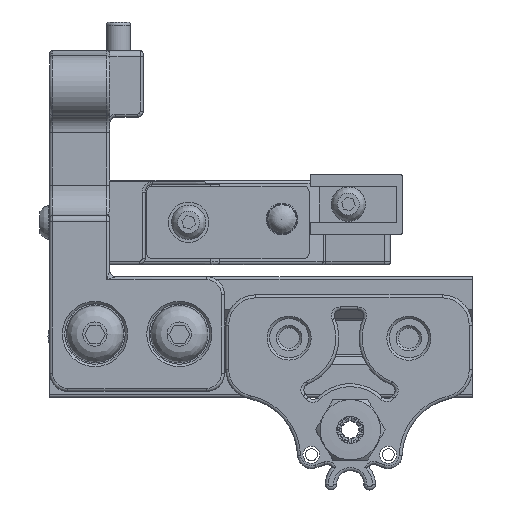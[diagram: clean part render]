
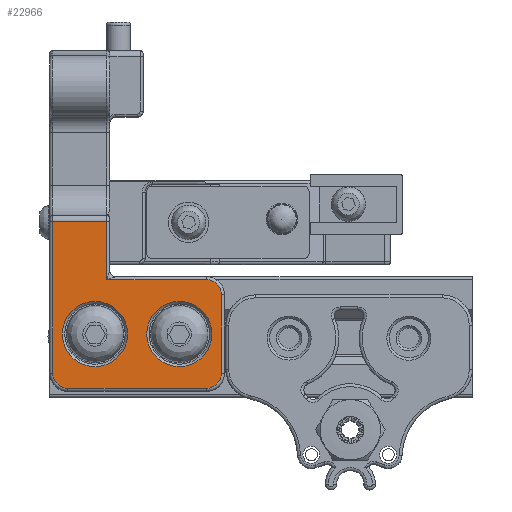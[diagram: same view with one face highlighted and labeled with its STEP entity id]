
A CAD part, top view. The second image highlights one B-rep face of the part: STEP entity #22966.
In plain terms, the highlighted planar face has unit normal (0, 0, 1).
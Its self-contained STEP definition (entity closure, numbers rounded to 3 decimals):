
#647=FACE_BOUND('',#7189,.T.);
#648=FACE_BOUND('',#7190,.T.);
#1763=PLANE('',#25096);
#2638=LINE('',#71018,#3911);
#2639=LINE('',#71022,#3912);
#2640=LINE('',#71026,#3913);
#2641=LINE('',#71028,#3914);
#2642=LINE('',#71030,#3915);
#2643=LINE('',#71031,#3916);
#3911=VECTOR('',#29434,10.);
#3912=VECTOR('',#29437,10.);
#3913=VECTOR('',#29440,10.);
#3914=VECTOR('',#29441,10.);
#3915=VECTOR('',#29442,1.);
#3916=VECTOR('',#29443,10.);
#5738=FACE_OUTER_BOUND('',#7188,.T.);
#7188=EDGE_LOOP('',(#18622,#18623,#18624,#18625,#18626,#18627,#18628,#18629,
#18630));
#7189=EDGE_LOOP('',(#18631));
#7190=EDGE_LOOP('',(#18632));
#8489=CIRCLE('',#25093,5.4);
#8492=CIRCLE('',#25097,2.5);
#8493=CIRCLE('',#25098,2.5);
#8494=CIRCLE('',#25099,2.5);
#8495=CIRCLE('',#25100,5.4);
#10525=VERTEX_POINT('',#71006);
#10528=VERTEX_POINT('',#71014);
#10529=VERTEX_POINT('',#71015);
#10530=VERTEX_POINT('',#71017);
#10531=VERTEX_POINT('',#71019);
#10532=VERTEX_POINT('',#71021);
#10533=VERTEX_POINT('',#71023);
#10534=VERTEX_POINT('',#71025);
#10535=VERTEX_POINT('',#71027);
#10536=VERTEX_POINT('',#71029);
#10537=VERTEX_POINT('',#71032);
#13359=EDGE_CURVE('',#10525,#10525,#8489,.T.);
#13363=EDGE_CURVE('',#10528,#10529,#8492,.T.);
#13364=EDGE_CURVE('',#10530,#10528,#2638,.T.);
#13365=EDGE_CURVE('',#10531,#10530,#8493,.T.);
#13366=EDGE_CURVE('',#10532,#10531,#2639,.T.);
#13367=EDGE_CURVE('',#10533,#10532,#8494,.T.);
#13368=EDGE_CURVE('',#10534,#10533,#2640,.T.);
#13369=EDGE_CURVE('',#10535,#10534,#2641,.T.);
#13370=EDGE_CURVE('',#10536,#10535,#2642,.T.);
#13371=EDGE_CURVE('',#10529,#10536,#2643,.T.);
#13372=EDGE_CURVE('',#10537,#10537,#8495,.T.);
#18622=ORIENTED_EDGE('',*,*,#13363,.F.);
#18623=ORIENTED_EDGE('',*,*,#13364,.F.);
#18624=ORIENTED_EDGE('',*,*,#13365,.F.);
#18625=ORIENTED_EDGE('',*,*,#13366,.F.);
#18626=ORIENTED_EDGE('',*,*,#13367,.F.);
#18627=ORIENTED_EDGE('',*,*,#13368,.F.);
#18628=ORIENTED_EDGE('',*,*,#13369,.F.);
#18629=ORIENTED_EDGE('',*,*,#13370,.F.);
#18630=ORIENTED_EDGE('',*,*,#13371,.F.);
#18631=ORIENTED_EDGE('',*,*,#13372,.F.);
#18632=ORIENTED_EDGE('',*,*,#13359,.F.);
#22966=ADVANCED_FACE('',(#5738,#647,#648),#1763,.F.);
#25093=AXIS2_PLACEMENT_3D('',#71007,#29423,#29424);
#25096=AXIS2_PLACEMENT_3D('',#71013,#29430,#29431);
#25097=AXIS2_PLACEMENT_3D('',#71016,#29432,#29433);
#25098=AXIS2_PLACEMENT_3D('',#71020,#29435,#29436);
#25099=AXIS2_PLACEMENT_3D('',#71024,#29438,#29439);
#25100=AXIS2_PLACEMENT_3D('',#71033,#29444,#29445);
#29423=DIRECTION('center_axis',(0.,0.,
1.));
#29424=DIRECTION('ref_axis',(-1.,0.,0.));
#29430=DIRECTION('center_axis',(0.,0.,
-1.));
#29431=DIRECTION('ref_axis',(0.,-1.,0.));
#29432=DIRECTION('center_axis',(0.,0.,
-1.));
#29433=DIRECTION('ref_axis',(-0.473,-0.881,0.));
#29434=DIRECTION('',(-1.,0.,0.));
#29435=DIRECTION('center_axis',(0.,0.,
-1.));
#29436=DIRECTION('ref_axis',(0.707,-0.707,0.));
#29437=DIRECTION('',(0.,-1.,0.));
#29438=DIRECTION('center_axis',(0.,0.,
-1.));
#29439=DIRECTION('ref_axis',(0.707,0.707,0.));
#29440=DIRECTION('',(1.,0.,0.));
#29441=DIRECTION('',(0.,-1.,0.));
#29442=DIRECTION('',(1.,0.,0.));
#29443=DIRECTION('',(0.,1.,0.));
#29444=DIRECTION('center_axis',(0.,0.,
1.));
#29445=DIRECTION('ref_axis',(-1.,0.,0.));
#71006=CARTESIAN_POINT('',(-21.788,37.852,34.65));
#71007=CARTESIAN_POINT('Origin',(-27.188,37.852,34.65));
#71013=CARTESIAN_POINT('Origin',(-24.718,57.52,34.65));
#71014=CARTESIAN_POINT('',(-31.678,28.852,34.65));
#71015=CARTESIAN_POINT('',(-34.178,31.352,34.65));
#71016=CARTESIAN_POINT('Origin',(-31.678,31.352,34.65));
#71017=CARTESIAN_POINT('',(-8.718,28.852,34.65));
#71018=CARTESIAN_POINT('',(-15.218,28.852,34.65));
#71019=CARTESIAN_POINT('',(-6.218,31.352,34.65));
#71020=CARTESIAN_POINT('Origin',(-8.718,31.352,34.65));
#71021=CARTESIAN_POINT('',(-6.218,44.352,34.65));
#71022=CARTESIAN_POINT('',(-6.218,52.436,34.65));
#71023=CARTESIAN_POINT('',(-8.718,46.852,34.65));
#71024=CARTESIAN_POINT('Origin',(-8.718,44.352,34.65));
#71025=CARTESIAN_POINT('',(-25.218,46.852,34.65));
#71026=CARTESIAN_POINT('',(-24.968,46.852,34.65));
#71027=CARTESIAN_POINT('',(-25.218,56.52,34.65));
#71028=CARTESIAN_POINT('',(-25.218,49.061,34.65));
#71029=CARTESIAN_POINT('',(-34.178,56.52,34.65));
#71030=CARTESIAN_POINT('',(-23.961,56.52,34.65));
#71031=CARTESIAN_POINT('',(-34.178,64.751,34.65));
#71032=CARTESIAN_POINT('',(-7.808,37.852,34.65));
#71033=CARTESIAN_POINT('Origin',(-13.208,37.852,34.65));
